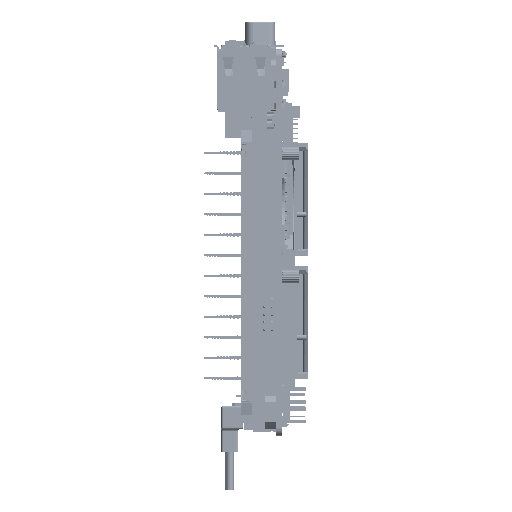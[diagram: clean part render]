
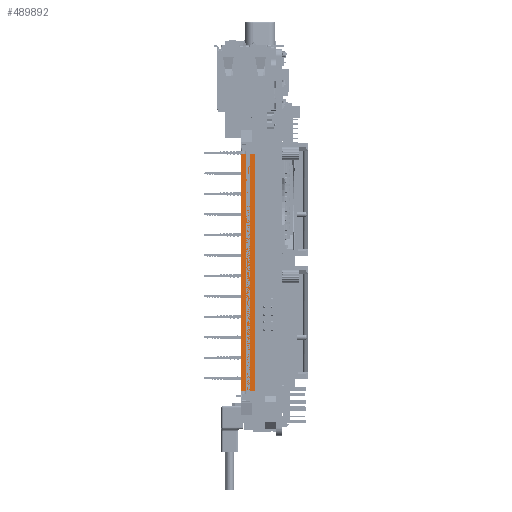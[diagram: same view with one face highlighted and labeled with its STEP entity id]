
A CAD part, left-side view. The second image highlights one B-rep face of the part: STEP entity #489892.
In plain terms, the highlighted planar face has unit normal (-1, 0, 0).
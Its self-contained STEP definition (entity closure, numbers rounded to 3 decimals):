
#8646 = LINE ( 'NONE', #541229, #123532 ) ;
#22773 = ORIENTED_EDGE ( 'NONE', *, *, #67579, .F. ) ;
#41213 = CARTESIAN_POINT ( 'NONE',  ( 10.767, 5.474, -28.559 ) ) ;
#42131 = DIRECTION ( 'NONE',  ( 0., 0., 1. ) ) ;
#46783 = LINE ( 'NONE', #291468, #161711 ) ;
#58730 = VERTEX_POINT ( 'NONE', #41213 ) ;
#67579 = EDGE_CURVE ( 'NONE', #426750, #526295, #456371, .T. ) ;
#68941 = EDGE_CURVE ( 'NONE', #526295, #58730, #8646, .T. ) ;
#75233 = ORIENTED_EDGE ( 'NONE', *, *, #68941, .F. ) ;
#78184 = VERTEX_POINT ( 'NONE', #532748 ) ;
#123532 = VECTOR ( 'NONE', #282235, 1000. ) ;
#161711 = VECTOR ( 'NONE', #465268, 1000. ) ;
#197091 = DIRECTION ( 'NONE',  ( -1., 0., 0. ) ) ;
#226678 = VECTOR ( 'NONE', #42131, 1000. ) ;
#253902 = CARTESIAN_POINT ( 'NONE',  ( 10.767, 5.474, -26.581 ) ) ;
#255820 = EDGE_CURVE ( 'NONE', #58730, #78184, #433580, .T. ) ;
#268287 = FACE_OUTER_BOUND ( 'NONE', #426711, .T. ) ;
#276346 = ORIENTED_EDGE ( 'NONE', *, *, #474968, .T. ) ;
#282235 = DIRECTION ( 'NONE',  ( 0., -1., 0. ) ) ;
#291468 = CARTESIAN_POINT ( 'NONE',  ( 10.767, 5.474, -91.159 ) ) ;
#297176 = DIRECTION ( 'NONE',  ( 0., 0., -1. ) ) ;
#302835 = CARTESIAN_POINT ( 'NONE',  ( 10.767, 9.274, -26.581 ) ) ;
#318564 = VECTOR ( 'NONE', #297176, 1000. ) ;
#326702 = ORIENTED_EDGE ( 'NONE', *, *, #255820, .F. ) ;
#334495 = CARTESIAN_POINT ( 'NONE',  ( 10.767, 9.274, -28.559 ) ) ;
#426711 = EDGE_LOOP ( 'NONE', ( #276346, #326702, #75233, #22773 ) ) ;
#426750 = VERTEX_POINT ( 'NONE', #455736 ) ;
#433580 = LINE ( 'NONE', #253902, #318564 ) ;
#455736 = CARTESIAN_POINT ( 'NONE',  ( 10.767, 9.274, -91.159 ) ) ;
#455827 = CARTESIAN_POINT ( 'NONE',  ( 10.767, 5.474, -28.559 ) ) ;
#456371 = LINE ( 'NONE', #302835, #226678 ) ;
#465268 = DIRECTION ( 'NONE',  ( 0., -1., 0. ) ) ;
#474968 = EDGE_CURVE ( 'NONE', #426750, #78184, #46783, .T. ) ;
#489892 = ADVANCED_FACE ( 'NONE', ( #268287 ), #541018, .T. ) ;
#499199 = DIRECTION ( 'NONE',  ( 0., 1., 0. ) ) ;
#518194 = AXIS2_PLACEMENT_3D ( 'NONE', #455827, #197091, #499199 ) ;
#526295 = VERTEX_POINT ( 'NONE', #334495 ) ;
#532748 = CARTESIAN_POINT ( 'NONE',  ( 10.767, 5.474, -91.159 ) ) ;
#541018 = PLANE ( 'NONE',  #518194 ) ;
#541229 = CARTESIAN_POINT ( 'NONE',  ( 10.767, 5.474, -28.559 ) ) ;
